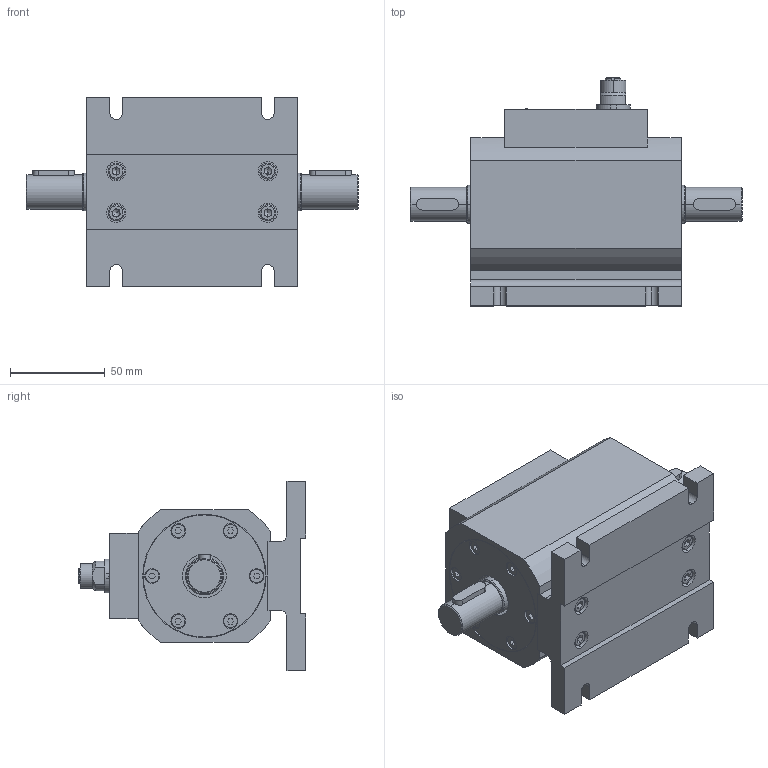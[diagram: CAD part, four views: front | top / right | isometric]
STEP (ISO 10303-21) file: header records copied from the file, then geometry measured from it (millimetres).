
FILE_DESCRIPTION (( 'STEP AP203' ), '1' );
FILE_NAME ('FYTH-100NM-眒瞄勤.STEP', '2024-07-17T09:01:29', ( '' ), ( '' ), 'SwSTEP 2.0', 'SolidWorks 2019', '' );
FILE_SCHEMA (( 'CONFIG_CONTROL_DESIGN' ));
Length unit declared in the file: millimetre
Products named in the file (1): FYTH-100NM-眒瞄勤
Bounding box: 175 x 120.1 x 100 mm (x, y, z)
Volume: 708724.1 mm3; surface area: 102295.3 mm2
Topology: 9 solids, 9 shells, 639 faces, 1548 edges, 997 vertices
Faces by surface type: plane 304, cylinder 271, cone 35, bspline 16, torus 12, sphere 1
Entity records: 27643 total; most frequent: CARTESIAN_POINT 12970, ORIENTED_EDGE 3058, DIRECTION 3000, EDGE_CURVE 1529, AXIS2_PLACEMENT_3D 1069, VERTEX_POINT 995, LINE 862, VECTOR 862
